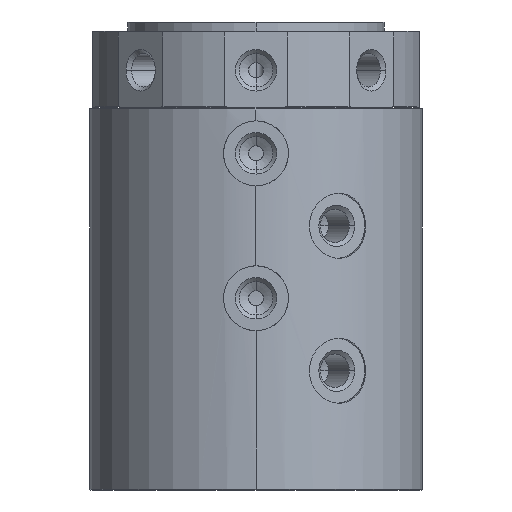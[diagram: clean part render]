
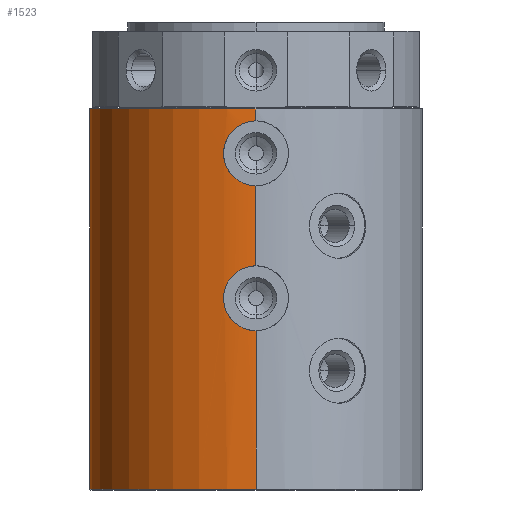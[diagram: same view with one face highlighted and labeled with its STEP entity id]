
A CAD part, left-side view. The second image highlights one B-rep face of the part: STEP entity #1523.
In plain terms, the highlighted cylindrical face has radius 55 mm (diameter 110 mm), a partial arc.
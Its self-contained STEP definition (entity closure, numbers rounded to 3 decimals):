
#390=B_SPLINE_CURVE_WITH_KNOTS('',3,(#13886,#13887,#13888,#13889,#13890,
#13891,#13892,#13893,#13894,#13895),.UNSPECIFIED.,.F.,.F.,(4,2,2,2,4),(0.,
0.25,0.5,0.75,1.),.UNSPECIFIED.);
#391=B_SPLINE_CURVE_WITH_KNOTS('',3,(#13896,#13897,#13898,#13899,#13900,
#13901,#13902,#13903,#13904,#13905),.UNSPECIFIED.,.F.,.F.,(4,2,2,2,4),(0.,
0.25,0.5,0.75,1.),.UNSPECIFIED.);
#392=B_SPLINE_CURVE_WITH_KNOTS('',3,(#13907,#13908,#13909,#13910,#13911,
#13912,#13913,#13914,#13915,#13916),.UNSPECIFIED.,.F.,.F.,(4,2,2,2,4),(0.,
0.25,0.5,0.75,1.),.UNSPECIFIED.);
#393=B_SPLINE_CURVE_WITH_KNOTS('',3,(#13917,#13918,#13919,#13920,#13921,
#13922,#13923,#13924,#13925,#13926),.UNSPECIFIED.,.F.,.F.,(4,2,2,2,4),(0.,
0.25,0.5,0.75,1.),.UNSPECIFIED.);
#586=CYLINDRICAL_SURFACE('',#8497,55.);
#989=FACE_OUTER_BOUND('',#3151,.T.);
#1523=ADVANCED_FACE('NO 27848',(#989),#586,.T.);
#1948=LINE('',#13241,#2404);
#1949=LINE('',#13246,#2405);
#1950=LINE('',#13259,#2406);
#1951=LINE('',#13272,#2407);
#1952=LINE('',#13276,#2408);
#1953=LINE('',#13289,#2409);
#2404=VECTOR('',#10367,1.);
#2405=VECTOR('',#10370,1.);
#2406=VECTOR('',#10371,1.);
#2407=VECTOR('',#10372,1.);
#2408=VECTOR('',#10375,1.);
#2409=VECTOR('',#10376,1.);
#3151=EDGE_LOOP('',(#5080,#5081,#5082,#5083,#5084,#5085,#5086,#5087,#5088,
#5089,#5090,#5091));
#5080=ORIENTED_EDGE('',*,*,#6765,.F.);
#5081=ORIENTED_EDGE('',*,*,#7035,.F.);
#5082=ORIENTED_EDGE('',*,*,#6775,.F.);
#5083=ORIENTED_EDGE('',*,*,#7036,.F.);
#5084=ORIENTED_EDGE('',*,*,#6773,.F.);
#5085=ORIENTED_EDGE('',*,*,#7037,.T.);
#5086=ORIENTED_EDGE('',*,*,#6771,.T.);
#5087=ORIENTED_EDGE('',*,*,#7038,.F.);
#5088=ORIENTED_EDGE('',*,*,#6769,.T.);
#5089=ORIENTED_EDGE('',*,*,#7039,.F.);
#5090=ORIENTED_EDGE('',*,*,#6767,.T.);
#5091=ORIENTED_EDGE('',*,*,#7040,.T.);
#5827=VERTEX_POINT('',#13242);
#5828=VERTEX_POINT('',#13243);
#5829=VERTEX_POINT('',#13245);
#5830=VERTEX_POINT('',#13247);
#5831=VERTEX_POINT('',#13258);
#5832=VERTEX_POINT('',#13260);
#5833=VERTEX_POINT('',#13271);
#5834=VERTEX_POINT('',#13273);
#5835=VERTEX_POINT('',#13275);
#5836=VERTEX_POINT('',#13277);
#5837=VERTEX_POINT('',#13288);
#5838=VERTEX_POINT('',#13290);
#6765=EDGE_CURVE('NO 23141',#5827,#5828,#1948,.T.);
#6767=EDGE_CURVE('NO 23153',#5830,#5829,#1949,.T.);
#6769=EDGE_CURVE('NO 23165',#5832,#5831,#1950,.T.);
#6771=EDGE_CURVE('NO 23177',#5834,#5833,#1951,.T.);
#6773=EDGE_CURVE('NO 23189',#5835,#5836,#1952,.T.);
#6775=EDGE_CURVE('NO 23201',#5837,#5838,#1953,.T.);
#7035=EDGE_CURVE('NO 27855',#5838,#5827,#390,.T.);
#7036=EDGE_CURVE('NO 27861',#5836,#5837,#391,.T.);
#7037=EDGE_CURVE('NO 27867',#5835,#5834,#7535,.T.);
#7038=EDGE_CURVE('NO 27873',#5832,#5833,#392,.T.);
#7039=EDGE_CURVE('NO 27879',#5830,#5831,#393,.T.);
#7040=EDGE_CURVE('NO 27885',#5829,#5828,#7536,.T.);
#7535=CIRCLE('',#8495,55.);
#7536=CIRCLE('',#8496,55.);
#8495=AXIS2_PLACEMENT_3D('',#13906,#10897,#10898);
#8496=AXIS2_PLACEMENT_3D('',#13927,#10899,#10900);
#8497=AXIS2_PLACEMENT_3D('',#13928,#10901,#10902);
#10367=DIRECTION('',(0.,0.,-1.));
#10370=DIRECTION('',(0.,0.,-1.));
#10371=DIRECTION('',(0.,0.,-1.));
#10372=DIRECTION('',(0.,0.,-1.));
#10375=DIRECTION('',(0.,0.,-1.));
#10376=DIRECTION('',(0.,0.,-1.));
#10897=DIRECTION('',(0.,0.,-1.));
#10898=DIRECTION('',(1.,0.,0.));
#10899=DIRECTION('',(0.,0.,1.));
#10900=DIRECTION('',(-1.,0.,0.));
#10901=DIRECTION('',(0.,0.,1.));
#10902=DIRECTION('',(0.,1.,0.));
#13241=CARTESIAN_POINT('',(-55.,0.,0.3));
#13242=CARTESIAN_POINT('',(-55.,0.,52.75));
#13243=CARTESIAN_POINT('',(-55.,0.,0.3));
#13245=CARTESIAN_POINT('',(55.,0.,0.3));
#13246=CARTESIAN_POINT('',(55.,0.,0.3));
#13247=CARTESIAN_POINT('',(55.,0.,40.75));
#13258=CARTESIAN_POINT('',(55.,0.,62.25));
#13259=CARTESIAN_POINT('',(55.,0.,62.25));
#13260=CARTESIAN_POINT('',(55.,0.,88.75));
#13271=CARTESIAN_POINT('',(55.,0.,110.25));
#13272=CARTESIAN_POINT('',(55.,0.,110.25));
#13273=CARTESIAN_POINT('',(55.,0.,126.2));
#13275=CARTESIAN_POINT('',(-55.,0.,126.2));
#13276=CARTESIAN_POINT('',(-55.,0.,122.25));
#13277=CARTESIAN_POINT('',(-55.,0.,122.25));
#13288=CARTESIAN_POINT('',(-55.,0.,100.75));
#13289=CARTESIAN_POINT('',(-55.,0.,74.25));
#13290=CARTESIAN_POINT('',(-55.,0.,74.25));
#13886=CARTESIAN_POINT('',(-55.,0.,74.25));
#13887=CARTESIAN_POINT('',(-55.,2.848,74.25));
#13888=CARTESIAN_POINT('',(-54.748,5.624,73.079));
#13889=CARTESIAN_POINT('',(-54.196,9.579,69.123));
#13890=CARTESIAN_POINT('',(-53.94,10.748,66.32));
#13891=CARTESIAN_POINT('',(-53.939,10.752,60.697));
#13892=CARTESIAN_POINT('',(-54.193,9.603,57.903));
#13893=CARTESIAN_POINT('',(-54.75,5.608,53.903));
#13894=CARTESIAN_POINT('',(-55.,2.848,52.75));
#13895=CARTESIAN_POINT('',(-55.,0.,52.75));
#13896=CARTESIAN_POINT('',(-55.,0.,122.25));
#13897=CARTESIAN_POINT('',(-55.,2.848,122.25));
#13898=CARTESIAN_POINT('',(-54.748,5.624,121.079));
#13899=CARTESIAN_POINT('',(-54.196,9.579,117.123));
#13900=CARTESIAN_POINT('',(-53.94,10.748,114.32));
#13901=CARTESIAN_POINT('',(-53.939,10.752,108.697));
#13902=CARTESIAN_POINT('',(-54.193,9.603,105.903));
#13903=CARTESIAN_POINT('',(-54.75,5.608,101.903));
#13904=CARTESIAN_POINT('',(-55.,2.848,100.75));
#13905=CARTESIAN_POINT('',(-55.,0.,100.75));
#13906=CARTESIAN_POINT('',(0.,0.,126.2));
#13907=CARTESIAN_POINT('',(55.,0.,88.75));
#13908=CARTESIAN_POINT('',(55.,2.848,88.75));
#13909=CARTESIAN_POINT('',(54.748,5.624,89.921));
#13910=CARTESIAN_POINT('',(54.196,9.579,93.877));
#13911=CARTESIAN_POINT('',(53.94,10.748,96.68));
#13912=CARTESIAN_POINT('',(53.939,10.752,102.303));
#13913=CARTESIAN_POINT('',(54.193,9.603,105.097));
#13914=CARTESIAN_POINT('',(54.75,5.608,109.097));
#13915=CARTESIAN_POINT('',(55.,2.848,110.25));
#13916=CARTESIAN_POINT('',(55.,0.,110.25));
#13917=CARTESIAN_POINT('',(55.,0.,40.75));
#13918=CARTESIAN_POINT('',(55.,2.848,40.75));
#13919=CARTESIAN_POINT('',(54.748,5.624,41.921));
#13920=CARTESIAN_POINT('',(54.196,9.579,45.877));
#13921=CARTESIAN_POINT('',(53.94,10.748,48.68));
#13922=CARTESIAN_POINT('',(53.939,10.752,54.303));
#13923=CARTESIAN_POINT('',(54.193,9.603,57.097));
#13924=CARTESIAN_POINT('',(54.75,5.608,61.097));
#13925=CARTESIAN_POINT('',(55.,2.848,62.25));
#13926=CARTESIAN_POINT('',(55.,0.,62.25));
#13927=CARTESIAN_POINT('',(0.,0.,0.3));
#13928=CARTESIAN_POINT('',(0.,0.,0.));
